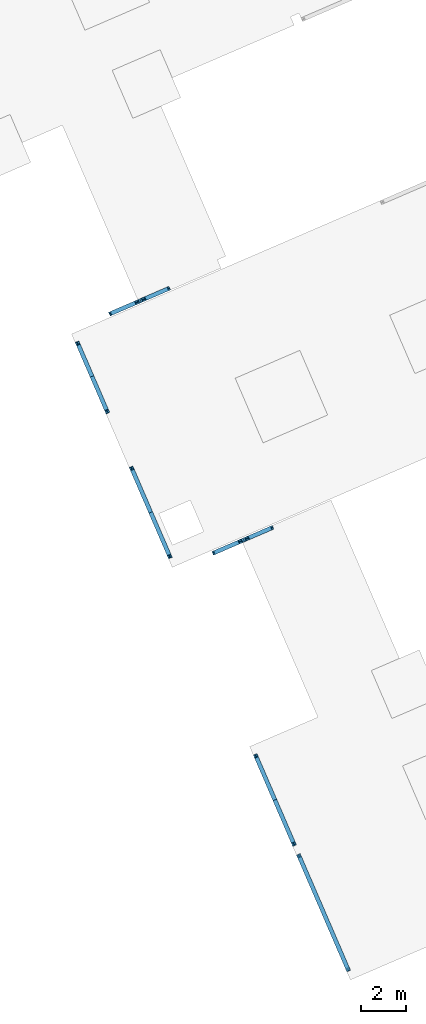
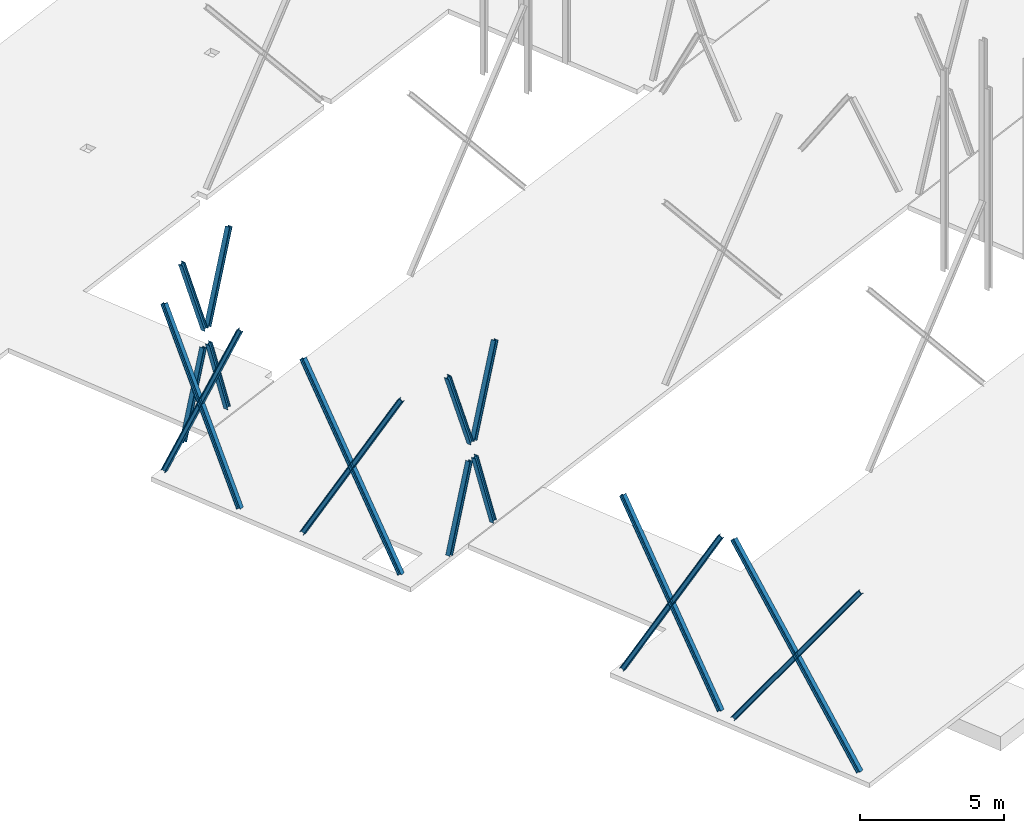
# One storey, part 2 of 6: 16 members.
"""IFC4 building model written with IfcOpenShell, lengths in metres."""

from ifc_helpers import new_model, entity, si_unit, converted_unit, derived_unit, direction, frame, origin, place, context, subcontext, project, spatial, line, arc, indexed_curve, outline, extrude, source, transform, mapped, material, type_object, type_shapes, element, save


model = new_model("IFC4")

# Units and contexts
model_context = context("Model", 3, precision=1e-05, world=origin(), true_north=direction((6.12323399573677e-17, 1.0)))
body_context = subcontext(model_context, "Body", "Model", "MODEL_VIEW")
ifc_project = project(units=[si_unit("LENGTHUNIT", "METRE"), si_unit("AREAUNIT", "SQUARE_METRE"), si_unit("VOLUMEUNIT", "CUBIC_METRE"), converted_unit("PLANEANGLEUNIT", "DEGREE", entity("IfcPlaneAngleMeasure", 0.0174532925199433), si_unit("PLANEANGLEUNIT", "RADIAN"), dimensions=[0, 0, 0, 0, 0, 0, 0]), si_unit("MASSUNIT", "GRAM", prefix="KILO"), derived_unit("MOMENTOFINERTIAUNIT", [(si_unit("LENGTHUNIT", "METRE"), 4)]), derived_unit("LINEARFORCEUNIT", [(si_unit("MASSUNIT", "GRAM", prefix="KILO"), 1), (si_unit("TIMEUNIT", "SECOND"), -2)]), derived_unit("WARPINGCONSTANTUNIT", [(si_unit("LENGTHUNIT", "METRE"), 6)]), derived_unit("THERMALTRANSMITTANCEUNIT", [(si_unit("MASSUNIT", "GRAM", prefix="KILO"), 1), (si_unit("THERMODYNAMICTEMPERATUREUNIT", "KELVIN"), -1), (si_unit("TIMEUNIT", "SECOND"), -3)]), derived_unit("USERDEFINED", [(si_unit("MASSUNIT", "GRAM", prefix="KILO"), 1), (si_unit("TIMEUNIT", "SECOND"), -2), (si_unit("THERMODYNAMICTEMPERATUREUNIT", "KELVIN"), -1)]), derived_unit("THERMALRESISTANCEUNIT", [(si_unit("MASSUNIT", "GRAM", prefix="KILO"), -1), (si_unit("TIMEUNIT", "SECOND"), 3), (si_unit("THERMODYNAMICTEMPERATUREUNIT", "KELVIN"), 1)])], contexts=[model_context])

# Site, building, storey
site_placement = place(None, origin())
site = spatial("IfcSite", under=ifc_project, at=site_placement, Name="Default", CompositionType="ELEMENT")
building_placement = place(site_placement, frame((12.6613425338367, -82.5732315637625, 317.15), z_axis=(0.0, 0.0, 1.0), x_axis=(-0.396377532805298, 0.918087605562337, 0.0)))
building = spatial("IfcBuilding", under=site, at=building_placement, Name="CESFAM Coyhaique", CompositionType="ELEMENT")
storey_placement = place(building_placement, frame((0.0, 0.0, -0.0500000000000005)))
storey = spatial("IfcBuildingStorey", under=building, at=storey_placement, Name="Nivel 1", CompositionType="ELEMENT", Elevation=-0.0500000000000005)

# Members
ifc_material = material(Name="Steel, 45-345", Category="Metal")
member_type_1 = type_object("IfcMemberType", Name="M_Double C-Channel:doble T HEB 180", PredefinedType="BRACE", material=ifc_material)
shared_shape_1 = source(origin(), body_context, "Body", "SweptSolid", [
    extrude(outline(indexed_curve([(-0.0899999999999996, -0.045425), (0.0900000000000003, -0.045425), (0.0900000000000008, 0.044575), (0.078332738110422, 0.0397422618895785), (0.0734999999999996, 0.028075), (0.0647413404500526, -0.0272249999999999), (-0.0647413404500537, -0.0272249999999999), (-0.0735000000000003, 0.0280749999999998), (-0.0783327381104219, 0.0397422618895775), (-0.0899999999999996, 0.0445749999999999)], segments=[line(1, 2, 3), arc(3, 4, 5), line(5, 6, 7, 8), arc(8, 9, 10), line(10, 1)], self_intersect=False)), frame((-4.78563420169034, 0.0454249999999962, 0.0), z_axis=(1.0, 0.0, 0.0), x_axis=(0.0, 0.0, -1.0)), (0.0, 0.0, 1.0), 9.32076840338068),
    extrude(outline(indexed_curve([(-0.045425, -0.0899999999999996), (0.0445749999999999, -0.0899999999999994), (0.0397422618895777, -0.078332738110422), (0.0280749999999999, -0.0735000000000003), (-0.0272249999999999, -0.0647413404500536), (-0.0272249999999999, 0.0647413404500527), (0.0280749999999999, 0.0734999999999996), (0.0397422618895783, 0.0783327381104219), (0.044575, 0.0900000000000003), (-0.045425, 0.0900000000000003)], segments=[line(1, 2), arc(2, 3, 4), line(4, 5, 6, 7), arc(7, 8, 9), line(9, 10, 1)], self_intersect=False)), frame((-4.78563420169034, -0.0454250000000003, 0.0), z_axis=(1.0, 0.0, 0.0), x_axis=(0.0, -1.0, 0.0)), (0.0, 0.0, 1.0), 9.32076840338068),
])
type_shapes(member_type_1, [shared_shape_1])
member_1_placement = place(storey_placement, frame((7.24194128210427, 17.3128504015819, 4.12248177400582), z_axis=(-0.8120873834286, 0.0, 0.583535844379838), x_axis=(0.583535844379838, 0.0, 0.8120873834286)))
element("IfcMember", 1, at=member_1_placement, inside=storey, type_object=member_type_1, Name="M_Double C-Channel:doble T HEB 180", ObjectType="M_Double C-Channel:doble T HEB 180", PredefinedType="BRACE", context=body_context, shape_type="MappedRepresentation", body=[
    mapped(shared_shape_1, transform((0.0, 0.0, 0.0), scale=1.0)),
])
member_type_2 = type_object("IfcMemberType", Name="M_Double C-Channel:doble T HEB 180", PredefinedType="BRACE", material=ifc_material)
shared_shape_2 = source(origin(), body_context, "Body", "SweptSolid", [
    extrude(outline(indexed_curve([(-0.045425, -0.0899999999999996), (0.0445749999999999, -0.0899999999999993), (0.0397422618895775, -0.0783327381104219), (0.0280749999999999, -0.0735000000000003), (-0.0272249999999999, -0.0647413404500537), (-0.0272249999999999, 0.0647413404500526), (0.0280750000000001, 0.0734999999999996), (0.0397422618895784, 0.078332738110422), (0.044575, 0.0900000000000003), (-0.045425, 0.0900000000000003)], segments=[line(1, 2), arc(2, 3, 4), line(4, 5, 6, 7), arc(7, 8, 9), line(9, 10, 1)], self_intersect=False)), frame((-4.78563420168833, -0.0454249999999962, 0.0), z_axis=(1.0, 0.0, 0.0), x_axis=(0.0, -1.0, 0.0)), (0.0, 0.0, 1.0), 9.35188323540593),
    extrude(outline(indexed_curve([(-0.0899999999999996, -0.045425), (0.0900000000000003, -0.045425), (0.0900000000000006, 0.044575), (0.0783327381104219, 0.0397422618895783), (0.0734999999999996, 0.028075), (0.0647413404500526, -0.0272249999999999), (-0.0647413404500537, -0.0272249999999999), (-0.0735000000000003, 0.0280749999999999), (-0.0783327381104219, 0.0397422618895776), (-0.0899999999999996, 0.0445749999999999)], segments=[line(1, 2, 3), arc(3, 4, 5), line(5, 6, 7, 8), arc(8, 9, 10), line(10, 1)], self_intersect=False)), frame((-4.78563420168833, 0.0454250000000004, 0.0), z_axis=(1.0, 0.0, 0.0), x_axis=(0.0, 0.0, -1.0)), (0.0, 0.0, 1.0), 9.35188323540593),
])
type_shapes(member_type_2, [shared_shape_2])
member_2_placement = place(storey_placement, frame((7.0957655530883, 17.3128504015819, 4.12248177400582), z_axis=(0.8120873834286, 0.0, 0.583535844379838), x_axis=(-0.583535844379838, 0.0, 0.8120873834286)))
element("IfcMember", 2, at=member_2_placement, inside=storey, type_object=member_type_2, Name="M_Double C-Channel:doble T HEB 180", ObjectType="M_Double C-Channel:doble T HEB 180", PredefinedType="BRACE", context=body_context, shape_type="MappedRepresentation", body=[
    mapped(shared_shape_2, transform((0.0, 0.0, 0.0), scale=1.0)),
])
member_type_3 = type_object("IfcMemberType", Name="M_Double C-Channel:doble T HEB 180", PredefinedType="BRACE", material=ifc_material)
shared_shape_3 = source(origin(), body_context, "Body", "SweptSolid", [
    extrude(outline(indexed_curve([(-0.0899999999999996, -0.045425), (0.0900000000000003, -0.045425), (0.0900000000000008, 0.044575), (0.078332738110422, 0.0397422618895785), (0.0734999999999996, 0.028075), (0.0647413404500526, -0.0272249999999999), (-0.0647413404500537, -0.0272249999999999), (-0.0735000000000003, 0.0280749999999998), (-0.0783327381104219, 0.0397422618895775), (-0.0899999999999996, 0.0445749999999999)], segments=[line(1, 2, 3), arc(3, 4, 5), line(5, 6, 7, 8), arc(8, 9, 10), line(10, 1)], self_intersect=False)), frame((-4.40165916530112, 0.0454249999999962, 0.0), z_axis=(1.0, 0.0, 0.0), x_axis=(0.0, 0.0, -1.0)), (0.0, 0.0, 1.0), 8.49019333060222),
    extrude(outline(indexed_curve([(-0.045425, -0.0899999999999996), (0.0445749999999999, -0.0899999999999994), (0.0397422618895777, -0.078332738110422), (0.0280749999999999, -0.0735000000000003), (-0.0272249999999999, -0.0647413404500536), (-0.0272249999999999, 0.0647413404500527), (0.0280749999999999, 0.0734999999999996), (0.0397422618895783, 0.0783327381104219), (0.044575, 0.0900000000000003), (-0.045425, 0.0900000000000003)], segments=[line(1, 2), arc(2, 3, 4), line(4, 5, 6, 7), arc(7, 8, 9), line(9, 10, 1)], self_intersect=False)), frame((-4.40165916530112, -0.0454250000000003, 0.0), z_axis=(1.0, 0.0, 0.0), x_axis=(0.0, -1.0, 0.0)), (0.0, 0.0, 1.0), 8.49019333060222),
])
type_shapes(member_type_3, [shared_shape_3])
member_3_placement = place(storey_placement, frame((12.646880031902, 17.3128504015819, 4.13014637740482), z_axis=(-0.866962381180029, 0.0, 0.498373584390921), x_axis=(0.498373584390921, 0.0, 0.866962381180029)))
element("IfcMember", 3, at=member_3_placement, inside=storey, type_object=member_type_3, Name="M_Double C-Channel:doble T HEB 180", ObjectType="M_Double C-Channel:doble T HEB 180", PredefinedType="BRACE", context=body_context, shape_type="MappedRepresentation", body=[
    mapped(shared_shape_3, transform((0.0, 0.0, 0.0), scale=1.0)),
])
member_type_4 = type_object("IfcMemberType", Name="M_Double C-Channel:doble T HEB 180", PredefinedType="BRACE", material=ifc_material)
shared_shape_4 = source(origin(), body_context, "Body", "SweptSolid", [
    extrude(outline(indexed_curve([(-0.045425, -0.0899999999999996), (0.0445749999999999, -0.0899999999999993), (0.0397422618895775, -0.0783327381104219), (0.0280749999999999, -0.0735000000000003), (-0.0272249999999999, -0.0647413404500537), (-0.0272249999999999, 0.0647413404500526), (0.0280750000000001, 0.0734999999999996), (0.0397422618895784, 0.078332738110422), (0.044575, 0.0900000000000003), (-0.045425, 0.0900000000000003)], segments=[line(1, 2), arc(2, 3, 4), line(4, 5, 6, 7), arc(7, 8, 9), line(9, 10, 1)], self_intersect=False)), frame((-4.40165916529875, -0.0454249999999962, 0.0), z_axis=(1.0, 0.0, 0.0), x_axis=(0.0, -1.0, 0.0)), (0.0, 0.0, 1.0), 8.49019333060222),
    extrude(outline(indexed_curve([(-0.0899999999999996, -0.045425), (0.0900000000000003, -0.045425), (0.0900000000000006, 0.044575), (0.0783327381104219, 0.0397422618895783), (0.0734999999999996, 0.028075), (0.0647413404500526, -0.0272249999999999), (-0.0647413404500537, -0.0272249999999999), (-0.0735000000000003, 0.0280749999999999), (-0.0783327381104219, 0.0397422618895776), (-0.0899999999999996, 0.0445749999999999)], segments=[line(1, 2, 3), arc(3, 4, 5), line(5, 6, 7, 8), arc(8, 9, 10), line(10, 1)], self_intersect=False)), frame((-4.40165916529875, 0.0454250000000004, 0.0), z_axis=(1.0, 0.0, 0.0), x_axis=(0.0, 0.0, -1.0)), (0.0, 0.0, 1.0), 8.49019333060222),
])
type_shapes(member_type_4, [shared_shape_4])
member_4_placement = place(storey_placement, frame((12.4908268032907, 17.3128504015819, 4.13014637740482), z_axis=(0.866962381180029, 0.0, 0.498373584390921), x_axis=(-0.498373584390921, 0.0, 0.866962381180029)))
element("IfcMember", 4, at=member_4_placement, inside=storey, type_object=member_type_4, Name="M_Double C-Channel:doble T HEB 180", ObjectType="M_Double C-Channel:doble T HEB 180", PredefinedType="BRACE", context=body_context, shape_type="MappedRepresentation", body=[
    mapped(shared_shape_4, transform((0.0, 0.0, 0.0), scale=1.0)),
])
member_type_5 = type_object("IfcMemberType", Name="M_Double C-Channel:doble T HEB 180", PredefinedType="BRACE", material=ifc_material)
shared_shape_5 = source(origin(), body_context, "Body", "SweptSolid", [
    extrude(outline(indexed_curve([(-0.0899999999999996, -0.045425), (0.0900000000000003, -0.045425), (0.0900000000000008, 0.044575), (0.078332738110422, 0.0397422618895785), (0.0734999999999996, 0.028075), (0.0647413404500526, -0.0272249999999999), (-0.0647413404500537, -0.0272249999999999), (-0.0735000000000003, 0.0280749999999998), (-0.0783327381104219, 0.0397422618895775), (-0.0899999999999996, 0.0445749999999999)], segments=[line(1, 2, 3), arc(3, 4, 5), line(5, 6, 7, 8), arc(8, 9, 10), line(10, 1)], self_intersect=False)), frame((-4.40165916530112, 0.0454249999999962, 0.0), z_axis=(1.0, 0.0, 0.0), x_axis=(0.0, 0.0, -1.0)), (0.0, 0.0, 1.0), 8.49019333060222),
    extrude(outline(indexed_curve([(-0.045425, -0.0899999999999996), (0.0445749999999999, -0.0899999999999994), (0.0397422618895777, -0.078332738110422), (0.0280749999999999, -0.0735000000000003), (-0.0272249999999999, -0.0647413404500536), (-0.0272249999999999, 0.0647413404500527), (0.0280749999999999, 0.0734999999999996), (0.0397422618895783, 0.0783327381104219), (0.044575, 0.0900000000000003), (-0.045425, 0.0900000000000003)], segments=[line(1, 2), arc(2, 3, 4), line(4, 5, 6, 7), arc(7, 8, 9), line(9, 10, 1)], self_intersect=False)), frame((-4.40165916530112, -0.0454250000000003, 0.0), z_axis=(1.0, 0.0, 0.0), x_axis=(0.0, -1.0, 0.0)), (0.0, 0.0, 1.0), 8.49019333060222),
])
type_shapes(member_type_5, [shared_shape_5])
member_5_placement = place(storey_placement, frame((26.4468800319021, 17.3128504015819, 4.13014637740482), z_axis=(-0.86696238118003, 0.0, 0.498373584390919), x_axis=(0.498373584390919, 0.0, 0.86696238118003)))
element("IfcMember", 5, at=member_5_placement, inside=storey, type_object=member_type_5, Name="M_Double C-Channel:doble T HEB 180", ObjectType="M_Double C-Channel:doble T HEB 180", PredefinedType="BRACE", context=body_context, shape_type="MappedRepresentation", body=[
    mapped(shared_shape_5, transform((0.0, 0.0, 0.0), scale=1.0)),
])
member_type_6 = type_object("IfcMemberType", Name="M_Double C-Channel:doble T HEB 180", PredefinedType="BRACE", material=ifc_material)
shared_shape_6 = source(origin(), body_context, "Body", "SweptSolid", [
    extrude(outline(indexed_curve([(-0.045425, -0.0899999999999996), (0.0445749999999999, -0.0899999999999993), (0.0397422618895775, -0.0783327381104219), (0.0280749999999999, -0.0735000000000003), (-0.0272249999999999, -0.0647413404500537), (-0.0272249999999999, 0.0647413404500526), (0.0280750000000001, 0.0734999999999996), (0.0397422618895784, 0.078332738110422), (0.044575, 0.0900000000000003), (-0.045425, 0.0900000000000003)], segments=[line(1, 2), arc(2, 3, 4), line(4, 5, 6, 7), arc(7, 8, 9), line(9, 10, 1)], self_intersect=False)), frame((-4.40165916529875, -0.0454249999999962, 0.0), z_axis=(1.0, 0.0, 0.0), x_axis=(0.0, -1.0, 0.0)), (0.0, 0.0, 1.0), 8.49019333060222),
    extrude(outline(indexed_curve([(-0.0899999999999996, -0.045425), (0.0900000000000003, -0.045425), (0.0900000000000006, 0.044575), (0.0783327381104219, 0.0397422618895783), (0.0734999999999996, 0.028075), (0.0647413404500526, -0.0272249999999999), (-0.0647413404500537, -0.0272249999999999), (-0.0735000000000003, 0.0280749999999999), (-0.0783327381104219, 0.0397422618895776), (-0.0899999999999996, 0.0445749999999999)], segments=[line(1, 2, 3), arc(3, 4, 5), line(5, 6, 7, 8), arc(8, 9, 10), line(10, 1)], self_intersect=False)), frame((-4.40165916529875, 0.0454250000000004, 0.0), z_axis=(1.0, 0.0, 0.0), x_axis=(0.0, 0.0, -1.0)), (0.0, 0.0, 1.0), 8.49019333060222),
])
type_shapes(member_type_6, [shared_shape_6])
member_6_placement = place(storey_placement, frame((26.2908268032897, 17.3128504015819, 4.13014637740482), z_axis=(0.86696238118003, 0.0, 0.498373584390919), x_axis=(-0.498373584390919, 0.0, 0.86696238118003)))
element("IfcMember", 6, at=member_6_placement, inside=storey, type_object=member_type_6, Name="M_Double C-Channel:doble T HEB 180", ObjectType="M_Double C-Channel:doble T HEB 180", PredefinedType="BRACE", context=body_context, shape_type="MappedRepresentation", body=[
    mapped(shared_shape_6, transform((0.0, 0.0, 0.0), scale=1.0)),
])
member_type_7 = type_object("IfcMemberType", Name="M_Double C-Channel:doble T HEB 180", PredefinedType="BRACE", material=ifc_material)
shared_shape_7 = source(origin(), body_context, "Body", "SweptSolid", [
    extrude(outline(indexed_curve([(-0.0899999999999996, -0.045425), (0.0900000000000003, -0.045425), (0.0900000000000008, 0.044575), (0.078332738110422, 0.0397422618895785), (0.0734999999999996, 0.028075), (0.0647413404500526, -0.0272249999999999), (-0.0647413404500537, -0.0272249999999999), (-0.0735000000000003, 0.0280749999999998), (-0.0783327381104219, 0.0397422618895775), (-0.0899999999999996, 0.0445749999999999)], segments=[line(1, 2, 3), arc(3, 4, 5), line(5, 6, 7, 8), arc(8, 9, 10), line(10, 1)], self_intersect=False)), frame((-4.2197162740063, 0.0454249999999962, 0.0), z_axis=(1.0, 0.0, 0.0), x_axis=(0.0, 0.0, -1.0)), (0.0, 0.0, 1.0), 7.99494149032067),
    extrude(outline(indexed_curve([(-0.045425, -0.0899999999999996), (0.0445749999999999, -0.0899999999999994), (0.0397422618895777, -0.078332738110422), (0.0280749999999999, -0.0735000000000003), (-0.0272249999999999, -0.0647413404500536), (-0.0272249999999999, 0.0647413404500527), (0.0280749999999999, 0.0734999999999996), (0.0397422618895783, 0.0783327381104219), (0.044575, 0.0900000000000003), (-0.045425, 0.0900000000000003)], segments=[line(1, 2), arc(2, 3, 4), line(4, 5, 6, 7), arc(7, 8, 9), line(9, 10, 1)], self_intersect=False)), frame((-4.2197162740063, -0.0454250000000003, 0.0), z_axis=(1.0, 0.0, 0.0), x_axis=(0.0, -1.0, 0.0)), (0.0, 0.0, 1.0), 7.99494149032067),
])
type_shapes(member_type_7, [shared_shape_7])
member_7_placement = place(storey_placement, frame((32.934903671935, 17.3128504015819, 4.04672328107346), z_axis=(-0.912227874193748, 0.0, 0.409683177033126), x_axis=(0.409683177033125, 0.0, 0.912227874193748)))
element("IfcMember", 7, at=member_7_placement, inside=storey, type_object=member_type_7, Name="M_Double C-Channel:doble T HEB 180", ObjectType="M_Double C-Channel:doble T HEB 180", PredefinedType="BRACE", context=body_context, shape_type="MappedRepresentation", body=[
    mapped(shared_shape_7, transform((0.0, 0.0, 0.0), scale=1.0)),
])
member_type_8 = type_object("IfcMemberType", Name="M_Double C-Channel:doble T HEB 180", PredefinedType="BRACE", material=ifc_material)
shared_shape_8 = source(origin(), body_context, "Body", "SweptSolid", [
    extrude(outline(indexed_curve([(-0.045425, -0.0899999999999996), (0.0445749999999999, -0.0899999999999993), (0.0397422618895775, -0.0783327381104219), (0.0280749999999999, -0.0735000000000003), (-0.0272249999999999, -0.0647413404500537), (-0.0272249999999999, 0.0647413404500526), (0.0280750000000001, 0.0734999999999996), (0.0397422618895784, 0.078332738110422), (0.044575, 0.0900000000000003), (-0.045425, 0.0900000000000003)], segments=[line(1, 2), arc(2, 3, 4), line(4, 5, 6, 7), arc(7, 8, 9), line(9, 10, 1)], self_intersect=False)), frame((-4.0758252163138, -0.0454249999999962, 0.0), z_axis=(1.0, 0.0, 0.0), x_axis=(0.0, -1.0, 0.0)), (0.0, 0.0, 1.0), 7.99494149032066),
    extrude(outline(indexed_curve([(-0.0899999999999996, -0.045425), (0.0900000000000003, -0.045425), (0.0900000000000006, 0.044575), (0.0783327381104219, 0.0397422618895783), (0.0734999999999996, 0.028075), (0.0647413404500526, -0.0272249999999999), (-0.0647413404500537, -0.0272249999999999), (-0.0735000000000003, 0.0280749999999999), (-0.0783327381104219, 0.0397422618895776), (-0.0899999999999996, 0.0445749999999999)], segments=[line(1, 2, 3), arc(3, 4, 5), line(5, 6, 7, 8), arc(8, 9, 10), line(10, 1)], self_intersect=False)), frame((-4.0758252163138, 0.0454250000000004, 0.0), z_axis=(1.0, 0.0, 0.0), x_axis=(0.0, 0.0, -1.0)), (0.0, 0.0, 1.0), 7.99494149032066),
])
type_shapes(member_type_8, [shared_shape_8])
member_8_placement = place(storey_placement, frame((32.8117529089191, 17.3128504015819, 4.13812851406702), z_axis=(0.912227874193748, 0.0, 0.409683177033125), x_axis=(-0.409683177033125, 0.0, 0.912227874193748)))
element("IfcMember", 8, at=member_8_placement, inside=storey, type_object=member_type_8, Name="M_Double C-Channel:doble T HEB 180", ObjectType="M_Double C-Channel:doble T HEB 180", PredefinedType="BRACE", context=body_context, shape_type="MappedRepresentation", body=[
    mapped(shared_shape_8, transform((0.0, 0.0, 0.0), scale=1.0)),
])
member_type_9 = type_object("IfcMemberType", Name="M_Double C-Channel:doble T HEB 180", PredefinedType="BRACE", material=ifc_material)
shared_shape_9 = source(origin(), body_context, "Body", "SweptSolid", [
    extrude(outline(indexed_curve([(-0.0899999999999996, -0.045425), (0.0900000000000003, -0.045425), (0.0900000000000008, 0.044575), (0.078332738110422, 0.0397422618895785), (0.0734999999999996, 0.028075), (0.0647413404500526, -0.0272249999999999), (-0.0647413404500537, -0.0272249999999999), (-0.0735000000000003, 0.0280749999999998), (-0.0783327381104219, 0.0397422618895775), (-0.0899999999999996, 0.0445749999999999)], segments=[line(1, 2, 3), arc(3, 4, 5), line(5, 6, 7, 8), arc(8, 9, 10), line(10, 1)], self_intersect=False)), frame((-1.87404329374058, 0.0454249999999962, 0.0), z_axis=(1.0, 0.0, 0.0), x_axis=(0.0, 0.0, -1.0)), (0.0, 0.0, 1.0), 3.76078658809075),
    extrude(outline(indexed_curve([(-0.045425, -0.0899999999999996), (0.0445749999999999, -0.0899999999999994), (0.0397422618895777, -0.078332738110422), (0.0280749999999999, -0.0735000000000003), (-0.0272249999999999, -0.0647413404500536), (-0.0272249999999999, 0.0647413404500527), (0.0280749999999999, 0.0734999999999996), (0.0397422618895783, 0.0783327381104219), (0.044575, 0.0900000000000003), (-0.045425, 0.0900000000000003)], segments=[line(1, 2), arc(2, 3, 4), line(4, 5, 6, 7), arc(7, 8, 9), line(9, 10, 1)], self_intersect=False)), frame((-1.87404329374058, -0.0454250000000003, 0.0), z_axis=(1.0, 0.0, 0.0), x_axis=(0.0, -1.0, 0.0)), (0.0, 0.0, 1.0), 3.76078658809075),
])
type_shapes(member_type_9, [shared_shape_9])
for number, where, z_axis, x_axis in (
    (9, (23.6288534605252, 13.3269874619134, 6.11771638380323), (0.0, 0.944634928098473, 0.328123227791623), (0.0, -0.328123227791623, 0.944634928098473)),
    (10, (35.1088533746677, 14.7778194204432, 6.09998368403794), (0.0, -0.936333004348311, 0.351113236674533), (0.0, 0.351113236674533, 0.93633300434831)),
):
    element("IfcMember", number, at=place(storey_placement, frame(where, z_axis=z_axis, x_axis=x_axis)), inside=storey, type_object=member_type_9, Name="M_Double C-Channel:doble T HEB 180", ObjectType="M_Double C-Channel:doble T HEB 180", PredefinedType="BRACE", context=body_context, shape_type="MappedRepresentation", body=[
        mapped(shared_shape_9, transform((0.0, 0.0, 0.0), scale=1.0)),
    ])
member_type_10 = type_object("IfcMemberType", Name="M_Double C-Channel:doble T HEB 180", PredefinedType="BRACE", material=ifc_material)
shared_shape_10 = source(origin(), body_context, "Body", "SweptSolid", [
    extrude(outline(indexed_curve([(-0.045425, -0.0899999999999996), (0.0445749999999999, -0.0899999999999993), (0.0397422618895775, -0.0783327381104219), (0.0280749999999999, -0.0735000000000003), (-0.0272249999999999, -0.0647413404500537), (-0.0272249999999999, 0.0647413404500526), (0.0280750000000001, 0.0734999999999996), (0.0397422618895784, 0.078332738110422), (0.044575, 0.0900000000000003), (-0.045425, 0.0900000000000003)], segments=[line(1, 2), arc(2, 3, 4), line(4, 5, 6, 7), arc(7, 8, 9), line(9, 10, 1)], self_intersect=False)), frame((-1.87404329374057, -0.0454249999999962, 0.0), z_axis=(1.0, 0.0, 0.0), x_axis=(0.0, -1.0, 0.0)), (0.0, 0.0, 1.0), 3.76078658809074),
    extrude(outline(indexed_curve([(-0.0899999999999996, -0.045425), (0.0900000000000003, -0.045425), (0.0900000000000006, 0.044575), (0.0783327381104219, 0.0397422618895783), (0.0734999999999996, 0.028075), (0.0647413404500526, -0.0272249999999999), (-0.0647413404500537, -0.0272249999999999), (-0.0735000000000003, 0.0280749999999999), (-0.0783327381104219, 0.0397422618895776), (-0.0899999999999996, 0.0445749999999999)], segments=[line(1, 2, 3), arc(3, 4, 5), line(5, 6, 7, 8), arc(8, 9, 10), line(10, 1)], self_intersect=False)), frame((-1.87404329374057, 0.0454250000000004, 0.0), z_axis=(1.0, 0.0, 0.0), x_axis=(0.0, 0.0, -1.0)), (0.0, 0.0, 1.0), 3.76078658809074),
])
type_shapes(member_type_10, [shared_shape_10])
for number, where, z_axis, x_axis in (
    (11, (23.6288534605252, 14.7778194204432, 6.09998368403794), (0.0, -0.936333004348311, 0.351113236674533), (0.0, 0.351113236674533, 0.93633300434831)),
    (12, (35.1088533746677, 13.3269874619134, 6.11771638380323), (0.0, 0.944634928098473, 0.328123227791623), (0.0, -0.328123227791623, 0.944634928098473)),
):
    element("IfcMember", number, at=place(storey_placement, frame(where, z_axis=z_axis, x_axis=x_axis)), inside=storey, type_object=member_type_10, Name="M_Double C-Channel:doble T HEB 180", ObjectType="M_Double C-Channel:doble T HEB 180", PredefinedType="BRACE", context=body_context, shape_type="MappedRepresentation", body=[
        mapped(shared_shape_10, transform((0.0, 0.0, 0.0), scale=1.0)),
    ])
member_type_11 = type_object("IfcMemberType", Name="M_Double C-Channel:doble T HEB 180", PredefinedType="BRACE", material=ifc_material)
shared_shape_11 = source(origin(), body_context, "Body", "SweptSolid", [
    extrude(outline(indexed_curve([(-0.0899999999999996, -0.045425), (0.0900000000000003, -0.045425), (0.0900000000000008, 0.044575), (0.078332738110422, 0.0397422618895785), (0.0734999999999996, 0.028075), (0.0647413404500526, -0.0272249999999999), (-0.0647413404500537, -0.0272249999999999), (-0.0735000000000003, 0.0280749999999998), (-0.0783327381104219, 0.0397422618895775), (-0.0899999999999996, 0.0445749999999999)], segments=[line(1, 2, 3), arc(3, 4, 5), line(5, 6, 7, 8), arc(8, 9, 10), line(10, 1)], self_intersect=False)), frame((-1.93196328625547, 0.0454249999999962, 0.0), z_axis=(1.0, 0.0, 0.0), x_axis=(0.0, 0.0, -1.0)), (0.0, 0.0, 1.0), 3.54120674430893),
    extrude(outline(indexed_curve([(-0.045425, -0.0899999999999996), (0.0445749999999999, -0.0899999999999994), (0.0397422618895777, -0.078332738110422), (0.0280749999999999, -0.0735000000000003), (-0.0272249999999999, -0.0647413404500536), (-0.0272249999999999, 0.0647413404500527), (0.0280749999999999, 0.0734999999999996), (0.0397422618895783, 0.0783327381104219), (0.044575, 0.0900000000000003), (-0.045425, 0.0900000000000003)], segments=[line(1, 2), arc(2, 3, 4), line(4, 5, 6, 7), arc(7, 8, 9), line(9, 10, 1)], self_intersect=False)), frame((-1.93196328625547, -0.0454250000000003, 0.0), z_axis=(1.0, 0.0, 0.0), x_axis=(0.0, -1.0, 0.0)), (0.0, 0.0, 1.0), 3.54120674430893),
])
type_shapes(member_type_11, [shared_shape_11])
member_9_placement = place(storey_placement, frame((23.6288534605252, 14.8283397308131, 1.79546890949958), z_axis=(0.0, 0.944634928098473, 0.328123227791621), x_axis=(0.0, 0.328123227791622, -0.944634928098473)))
element("IfcMember", 13, at=member_9_placement, inside=storey, type_object=member_type_11, Name="M_Double C-Channel:doble T HEB 180", ObjectType="M_Double C-Channel:doble T HEB 180", PredefinedType="BRACE", context=body_context, shape_type="MappedRepresentation", body=[
    mapped(shared_shape_11, transform((0.0, 0.0, 0.0), scale=1.0)),
])
member_type_12 = type_object("IfcMemberType", Name="M_Double C-Channel:doble T HEB 180", PredefinedType="BRACE", material=ifc_material)
shared_shape_12 = source(origin(), body_context, "Body", "SweptSolid", [
    extrude(outline(indexed_curve([(-0.045425, -0.0899999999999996), (0.0445749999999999, -0.0899999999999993), (0.0397422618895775, -0.0783327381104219), (0.0280749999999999, -0.0735000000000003), (-0.0272249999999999, -0.0647413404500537), (-0.0272249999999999, 0.0647413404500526), (0.0280750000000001, 0.0734999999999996), (0.0397422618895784, 0.078332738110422), (0.044575, 0.0900000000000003), (-0.045425, 0.0900000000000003)], segments=[line(1, 2), arc(2, 3, 4), line(4, 5, 6, 7), arc(7, 8, 9), line(9, 10, 1)], self_intersect=False)), frame((-1.93196328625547, -0.0454249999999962, 0.0), z_axis=(1.0, 0.0, 0.0), x_axis=(0.0, -1.0, 0.0)), (0.0, 0.0, 1.0), 3.49390669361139),
    extrude(outline(indexed_curve([(-0.0899999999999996, -0.045425), (0.0900000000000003, -0.045425), (0.0900000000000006, 0.044575), (0.0783327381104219, 0.0397422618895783), (0.0734999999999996, 0.028075), (0.0647413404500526, -0.0272249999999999), (-0.0647413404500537, -0.0272249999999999), (-0.0735000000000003, 0.0280749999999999), (-0.0783327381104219, 0.0397422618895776), (-0.0899999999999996, 0.0445749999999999)], segments=[line(1, 2, 3), arc(3, 4, 5), line(5, 6, 7, 8), arc(8, 9, 10), line(10, 1)], self_intersect=False)), frame((-1.93196328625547, 0.0454250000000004, 0.0), z_axis=(1.0, 0.0, 0.0), x_axis=(0.0, 0.0, -1.0)), (0.0, 0.0, 1.0), 3.49390669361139),
])
type_shapes(member_type_12, [shared_shape_12])
member_10_placement = place(storey_placement, frame((23.6288534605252, 13.2802133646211, 1.77778433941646), z_axis=(0.0, -0.951883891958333, 0.306458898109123), x_axis=(0.0, -0.306458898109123, -0.951883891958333)))
element("IfcMember", 14, at=member_10_placement, inside=storey, type_object=member_type_12, Name="M_Double C-Channel:doble T HEB 180", ObjectType="M_Double C-Channel:doble T HEB 180", PredefinedType="BRACE", context=body_context, shape_type="MappedRepresentation", body=[
    mapped(shared_shape_12, transform((0.0, 0.0, 0.0), scale=1.0)),
])
member_type_13 = type_object("IfcMemberType", Name="M_Double C-Channel:doble T HEB 180", PredefinedType="BRACE", material=ifc_material)
shared_shape_13 = source(origin(), body_context, "Body", "SweptSolid", [
    extrude(outline(indexed_curve([(-0.045425, -0.0899999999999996), (0.0445749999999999, -0.0899999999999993), (0.0397422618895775, -0.0783327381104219), (0.0280749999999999, -0.0735000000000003), (-0.0272249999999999, -0.0647413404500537), (-0.0272249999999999, 0.0647413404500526), (0.0280750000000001, 0.0734999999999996), (0.0397422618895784, 0.078332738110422), (0.044575, 0.0900000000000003), (-0.045425, 0.0900000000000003)], segments=[line(1, 2), arc(2, 3, 4), line(4, 5, 6, 7), arc(7, 8, 9), line(9, 10, 1)], self_intersect=False)), frame((-1.93196328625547, -0.0454249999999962, 0.0), z_axis=(1.0, 0.0, 0.0), x_axis=(0.0, -1.0, 0.0)), (0.0, 0.0, 1.0), 3.54120674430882),
    extrude(outline(indexed_curve([(-0.0899999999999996, -0.045425), (0.0900000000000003, -0.045425), (0.0900000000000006, 0.044575), (0.0783327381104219, 0.0397422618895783), (0.0734999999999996, 0.028075), (0.0647413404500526, -0.0272249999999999), (-0.0647413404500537, -0.0272249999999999), (-0.0735000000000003, 0.0280749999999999), (-0.0783327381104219, 0.0397422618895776), (-0.0899999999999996, 0.0445749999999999)], segments=[line(1, 2, 3), arc(3, 4, 5), line(5, 6, 7, 8), arc(8, 9, 10), line(10, 1)], self_intersect=False)), frame((-1.93196328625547, 0.0454250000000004, 0.0), z_axis=(1.0, 0.0, 0.0), x_axis=(0.0, 0.0, -1.0)), (0.0, 0.0, 1.0), 3.54120674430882),
])
type_shapes(member_type_13, [shared_shape_13])
member_11_placement = place(storey_placement, frame((35.1088533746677, 14.8283397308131, 1.79546890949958), z_axis=(0.0, 0.944634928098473, 0.328123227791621), x_axis=(0.0, 0.328123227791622, -0.944634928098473)))
element("IfcMember", 15, at=member_11_placement, inside=storey, type_object=member_type_13, Name="M_Double C-Channel:doble T HEB 180", ObjectType="M_Double C-Channel:doble T HEB 180", PredefinedType="BRACE", context=body_context, shape_type="MappedRepresentation", body=[
    mapped(shared_shape_13, transform((0.0, 0.0, 0.0), scale=1.0)),
])
member_type_14 = type_object("IfcMemberType", Name="M_Double C-Channel:doble T HEB 180", PredefinedType="BRACE", material=ifc_material)
shared_shape_14 = source(origin(), body_context, "Body", "SweptSolid", [
    extrude(outline(indexed_curve([(-0.0899999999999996, -0.045425), (0.0900000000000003, -0.045425), (0.0900000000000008, 0.044575), (0.078332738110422, 0.0397422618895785), (0.0734999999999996, 0.028075), (0.0647413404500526, -0.0272249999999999), (-0.0647413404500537, -0.0272249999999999), (-0.0735000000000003, 0.0280749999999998), (-0.0783327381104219, 0.0397422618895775), (-0.0899999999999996, 0.0445749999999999)], segments=[line(1, 2, 3), arc(3, 4, 5), line(5, 6, 7, 8), arc(8, 9, 10), line(10, 1)], self_intersect=False)), frame((-1.93196328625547, 0.0454249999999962, 0.0), z_axis=(1.0, 0.0, 0.0), x_axis=(0.0, 0.0, -1.0)), (0.0, 0.0, 1.0), 3.4939195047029),
    extrude(outline(indexed_curve([(-0.045425, -0.0899999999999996), (0.0445749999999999, -0.0899999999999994), (0.0397422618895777, -0.078332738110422), (0.0280749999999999, -0.0735000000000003), (-0.0272249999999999, -0.0647413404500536), (-0.0272249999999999, 0.0647413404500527), (0.0280749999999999, 0.0734999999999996), (0.0397422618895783, 0.0783327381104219), (0.044575, 0.0900000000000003), (-0.045425, 0.0900000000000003)], segments=[line(1, 2), arc(2, 3, 4), line(4, 5, 6, 7), arc(7, 8, 9), line(9, 10, 1)], self_intersect=False)), frame((-1.93196328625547, -0.0454250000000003, 0.0), z_axis=(1.0, 0.0, 0.0), x_axis=(0.0, -1.0, 0.0)), (0.0, 0.0, 1.0), 3.4939195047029),
])
type_shapes(member_type_14, [shared_shape_14])
member_12_placement = place(storey_placement, frame((35.1088533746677, 13.2802133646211, 1.77778433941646), z_axis=(0.0, -0.951883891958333, 0.306458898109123), x_axis=(0.0, -0.306458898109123, -0.951883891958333)))
element("IfcMember", 16, at=member_12_placement, inside=storey, type_object=member_type_14, Name="M_Double C-Channel:doble T HEB 180", ObjectType="M_Double C-Channel:doble T HEB 180", PredefinedType="BRACE", context=body_context, shape_type="MappedRepresentation", body=[
    mapped(shared_shape_14, transform((0.0, 0.0, 0.0), scale=1.0)),
])

save(model, "model.ifc")
